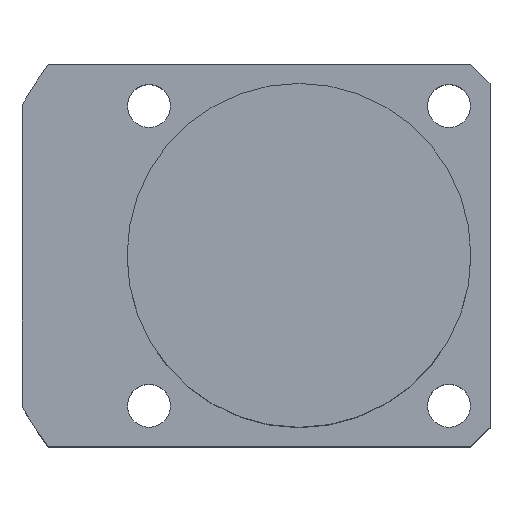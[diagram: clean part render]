
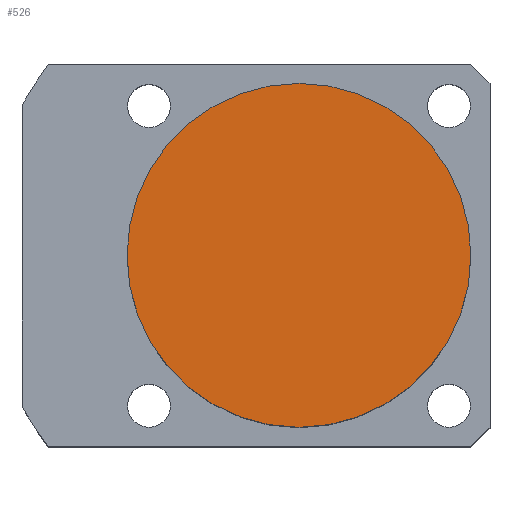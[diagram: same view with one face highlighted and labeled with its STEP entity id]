
A CAD part, top view. The second image highlights one B-rep face of the part: STEP entity #526.
In plain terms, the highlighted planar face has unit normal (0, 0, 1).
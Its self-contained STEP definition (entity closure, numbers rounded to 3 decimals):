
#59 = DIRECTION ( 'NONE',  ( 1., 0., 0. ) ) ;
#176 = CIRCLE ( 'NONE', #178, 18. ) ;
#178 = AXIS2_PLACEMENT_3D ( 'NONE', #832, #827, #400 ) ;
#184 = FACE_OUTER_BOUND ( 'NONE', #445, .T. ) ;
#187 = ORIENTED_EDGE ( 'NONE', *, *, #1008, .T. ) ;
#339 = CARTESIAN_POINT ( 'NONE',  ( 0., 0., 38.5 ) ) ;
#352 = CARTESIAN_POINT ( 'NONE',  ( 18., 0., 38.5 ) ) ;
#400 = DIRECTION ( 'NONE',  ( 1., 0., 0. ) ) ;
#427 = AXIS2_PLACEMENT_3D ( 'NONE', #723, #429, #1449 ) ;
#429 = DIRECTION ( 'NONE',  ( 0., 0., 1. ) ) ;
#445 = EDGE_LOOP ( 'NONE', ( #187, #1584 ) ) ;
#462 = AXIS2_PLACEMENT_3D ( 'NONE', #339, #1099, #59 ) ;
#526 = ADVANCED_FACE ( 'NONE', ( #184 ), #1394, .T. ) ;
#538 = VERTEX_POINT ( 'NONE', #352 ) ;
#723 = CARTESIAN_POINT ( 'NONE',  ( 0., 0., 38.5 ) ) ;
#827 = DIRECTION ( 'NONE',  ( 0., 0., 1. ) ) ;
#832 = CARTESIAN_POINT ( 'NONE',  ( 0., 0., 38.5 ) ) ;
#1008 = EDGE_CURVE ( 'NONE', #1429, #538, #1103, .T. ) ;
#1099 = DIRECTION ( 'NONE',  ( 0., 0., 1. ) ) ;
#1103 = CIRCLE ( 'NONE', #427, 18. ) ;
#1394 = PLANE ( 'NONE',  #462 ) ;
#1429 = VERTEX_POINT ( 'NONE', #1439 ) ;
#1439 = CARTESIAN_POINT ( 'NONE',  ( -18., 0., 38.5 ) ) ;
#1449 = DIRECTION ( 'NONE',  ( 1., 0., 0. ) ) ;
#1526 = EDGE_CURVE ( 'NONE', #538, #1429, #176, .T. ) ;
#1584 = ORIENTED_EDGE ( 'NONE', *, *, #1526, .T. ) ;
